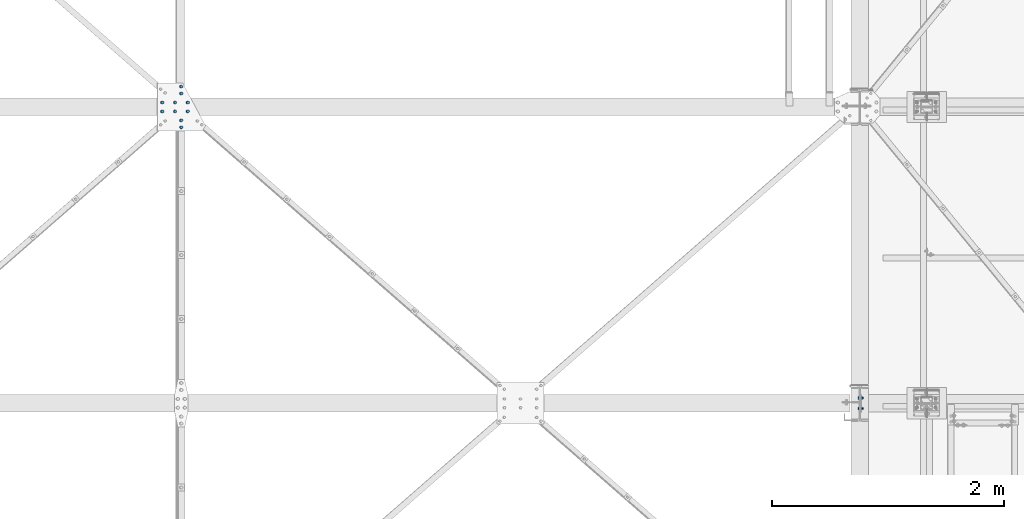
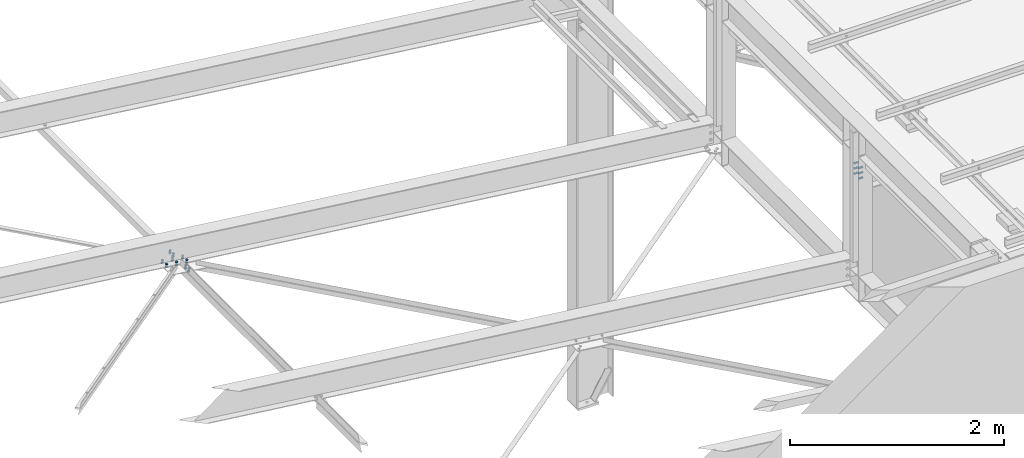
# One storey, part 302 of 3134: 4 mechanical fasteners, 4 elements without a shape of their own.
"""IFC2X3 building model written with IfcOpenShell, lengths in millimetres."""

from ifc_helpers import new_model, si_unit, frame, origin_with_axes, place, context, subcontext, project, spatial, faceted_brep, source, transform, mapped, material, type_object, element, aggregate, save


model = new_model("IFC2X3")

# Units and contexts
model_context = context("Model", 3, precision=1e-05, world=origin_with_axes())
body_context = subcontext(model_context, "Body", "Model", "MODEL_VIEW")
ifc_project = project(units=[si_unit("LENGTHUNIT", "METRE", prefix="MILLI"), si_unit("AREAUNIT", "SQUARE_METRE"), si_unit("VOLUMEUNIT", "CUBIC_METRE"), si_unit("MASSUNIT", "GRAM", prefix="KILO"), si_unit("TIMEUNIT", "SECOND"), si_unit("PLANEANGLEUNIT", "RADIAN"), si_unit("SOLIDANGLEUNIT", "STERADIAN"), si_unit("THERMODYNAMICTEMPERATUREUNIT", "DEGREE_CELSIUS"), si_unit("LUMINOUSINTENSITYUNIT", "LUMEN")], contexts=[model_context])

# Site, building, storey
site_placement = place(None, origin_with_axes())
site = spatial("IfcSite", under=ifc_project, at=site_placement, CompositionType="ELEMENT")
building_placement = place(site_placement, origin_with_axes())
building = spatial("IfcBuilding", under=site, at=building_placement, Name="Undefined", CompositionType="ELEMENT")
storey_placement = place(building_placement, origin_with_axes())
storey = spatial("IfcBuildingStorey", under=building, at=storey_placement, Name="Undefined", CompositionType="ELEMENT", Elevation=0.0)

# Assembly, mechanical fastener
assembly_1_placement = place(storey_placement, origin_with_axes())
assembly_1 = element("IfcElementAssembly", 1, at=assembly_1_placement, inside=storey, AssemblyPlace="NOTDEFINED", PredefinedType="RIGID_FRAME")
ifc_material = material(Name="8.8")
mechanical_fastener_type = type_object("IfcMechanicalFastenerType", Name="Bolt assembly")
shared_shape_1 = source(origin_with_axes(), body_context, "Body", "Brep", [
    faceted_brep([(13.856406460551, -16.9990000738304, 0.0), (6.92820323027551, -16.9990000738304, 12.0), (-6.92820323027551, -16.9990000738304, 12.0), (-13.856406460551, -16.9990000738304, 1.69692038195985e-15), (-6.92820323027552, -16.9990000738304, -12.0), (6.9282032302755, -16.9990000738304, -12.0), (6.9282032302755, -6.99900007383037, -12.0), (-6.92820323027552, -6.99900007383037, -12.0), (-13.856406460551, -6.99900007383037, 1.69692038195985e-15), (-6.92820323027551, -6.99900007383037, 12.0), (6.92820323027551, -6.99900007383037, 12.0), (13.856406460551, -6.99900007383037, 0.0), (8.0, -6.99900007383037, 0.0), (6.92820323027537, -6.99900007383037, 4.00000000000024), (3.99999999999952, -6.99900007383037, 6.92820323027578), (-8.29068785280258e-13, -6.99900007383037, 8.0), (-4.00000000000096, -6.99900007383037, 6.92820323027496), (-6.9282032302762, -6.99900007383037, 3.99999999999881), (-8.0, -6.99900007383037, -1.65813757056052e-12), (-6.92820323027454, -6.99900007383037, -4.00000000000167), (-3.99999999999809, -6.99900007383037, -6.92820323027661), (2.47832457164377e-12, -6.99900007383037, -8.0), (4.00000000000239, -6.99900007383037, -6.92820323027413), (6.92820323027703, -6.99900007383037, -3.99999999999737), (6.92820323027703, 33.0009999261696, -3.99999999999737), (4.00000000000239, 33.0009999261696, -6.92820323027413), (2.47832457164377e-12, 33.0009999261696, -8.0), (-3.99999999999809, 33.0009999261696, -6.92820323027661), (-6.92820323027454, 33.0009999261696, -4.00000000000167), (-8.0, 33.0009999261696, -1.65813757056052e-12), (-6.9282032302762, 33.0009999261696, 3.99999999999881), (-4.00000000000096, 33.0009999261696, 6.92820323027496), (-8.29068785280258e-13, 33.0009999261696, 8.0), (3.99999999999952, 33.0009999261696, 6.92820323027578), (6.92820323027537, 33.0009999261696, 4.00000000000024), (8.0, 33.0009999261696, 0.0), (13.856406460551, 14.9990000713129, 0.0), (6.92820323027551, 14.9990000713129, 12.0), (-6.92820323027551, 14.9990000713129, 12.0), (-13.856406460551, 14.9990000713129, 1.69692038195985e-15), (-6.92820323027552, 14.9990000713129, -12.0), (6.9282032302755, 14.9990000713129, -12.0), (6.9282032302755, 27.9990000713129, -12.0), (-6.92820323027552, 27.9990000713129, -12.0), (-13.856406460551, 27.9990000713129, 1.69692038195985e-15), (-6.92820323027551, 27.9990000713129, 12.0), (6.92820323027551, 27.9990000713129, 12.0), (13.856406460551, 27.9990000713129, 0.0)], [[[0, 1, 2, 3, 4, 5]], [[6, 7, 8, 9, 10, 11]], [[0, 11, 10, 1]], [[1, 10, 9, 2]], [[2, 9, 8, 3]], [[3, 8, 7, 4]], [[4, 7, 6, 5]], [[5, 6, 11, 0]], [[12, 13, 14, 15, 16, 17, 18, 19, 20, 21, 22, 23]], [[24, 25, 26, 27, 28, 29, 30, 31, 32, 33, 34, 35]], [[12, 35, 34, 13]], [[13, 34, 33, 14]], [[14, 33, 32, 15]], [[15, 32, 31, 16]], [[16, 31, 30, 17]], [[17, 30, 29, 18]], [[18, 29, 28, 19]], [[19, 28, 27, 20]], [[20, 27, 26, 21]], [[21, 26, 25, 22]], [[22, 25, 24, 23]], [[23, 24, 35, 12]], [[36, 37, 38, 39, 40, 41]], [[42, 43, 44, 45, 46, 47]], [[36, 47, 46, 37]], [[37, 46, 45, 38]], [[38, 45, 44, 39]], [[39, 44, 43, 40]], [[40, 43, 42, 41]], [[41, 42, 47, 36]]]),
    faceted_brep([(9.0, -3.46568413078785e-07, 0.0), (7.79422863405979, -3.46568413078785e-07, 4.50000000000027), (4.49999999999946, -3.46568413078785e-07, 7.79422863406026), (-9.3270238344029e-13, -3.46568413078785e-07, 9.0), (-4.50000000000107, -3.46568413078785e-07, 7.79422863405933), (-7.79422863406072, -3.46568413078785e-07, 4.49999999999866), (-9.0, -3.46568413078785e-07, -1.86540476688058e-12), (-7.79422863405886, -3.46568413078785e-07, -4.50000000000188), (-4.49999999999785, -3.46568413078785e-07, -7.79422863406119), (2.78811514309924e-12, -3.46568413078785e-07, -9.0), (4.50000000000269, -3.46568413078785e-07, -7.7942286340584), (7.79422863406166, -3.46568413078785e-07, -4.49999999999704), (7.79422863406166, 8.00000000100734, -4.49999999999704), (4.50000000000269, 8.00000000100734, -7.7942286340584), (2.78811514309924e-12, 8.00000000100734, -9.0), (-4.49999999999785, 8.00000000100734, -7.79422863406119), (-7.79422863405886, 8.00000000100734, -4.50000000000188), (-9.0, 8.00000000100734, -1.86540476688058e-12), (-7.79422863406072, 8.00000000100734, 4.49999999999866), (-4.50000000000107, 8.00000000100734, 7.79422863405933), (-9.3270238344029e-13, 8.00000000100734, 9.0), (4.49999999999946, 8.00000000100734, 7.79422863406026), (7.79422863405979, 8.00000000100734, 4.50000000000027), (9.0, 8.00000000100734, 0.0), (9.0, -6.89900007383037, 0.0), (7.79422863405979, -6.89900007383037, 4.50000000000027), (4.49999999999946, -6.89900007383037, 7.79422863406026), (-9.3270238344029e-13, -6.89900007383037, 9.0), (-4.50000000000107, -6.89900007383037, 7.79422863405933), (-7.79422863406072, -6.89900007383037, 4.49999999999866), (-9.0, -6.89900007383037, -1.86540476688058e-12), (-7.79422863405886, -6.89900007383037, -4.50000000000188), (-4.49999999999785, -6.89900007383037, -7.79422863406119), (2.78811514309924e-12, -6.89900007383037, -9.0), (4.50000000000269, -6.89900007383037, -7.7942286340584), (7.79422863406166, -6.89900007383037, -4.49999999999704), (7.79422863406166, 0.100999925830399, -4.49999999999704), (4.50000000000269, 0.100999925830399, -7.7942286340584), (2.78811514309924e-12, 0.100999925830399, -9.0), (-4.49999999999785, 0.100999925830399, -7.79422863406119), (-7.79422863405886, 0.100999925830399, -4.50000000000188), (-9.0, 0.100999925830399, -1.86540476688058e-12), (-7.79422863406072, 0.100999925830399, 4.49999999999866), (-4.50000000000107, 0.100999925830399, 7.79422863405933), (-9.3270238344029e-13, 0.100999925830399, 9.0), (4.49999999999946, 0.100999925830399, 7.79422863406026), (7.79422863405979, 0.100999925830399, 4.50000000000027), (9.0, 0.100999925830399, 0.0), (9.0, 7.89900007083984, 0.0), (7.79422863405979, 7.89900007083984, 4.50000000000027), (4.49999999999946, 7.89900007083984, 7.79422863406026), (-9.3270238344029e-13, 7.89900007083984, 9.0), (-4.50000000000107, 7.89900007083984, 7.79422863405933), (-7.79422863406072, 7.89900007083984, 4.49999999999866), (-9.0, 7.89900007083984, -1.86540476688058e-12), (-7.79422863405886, 7.89900007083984, -4.50000000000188), (-4.49999999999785, 7.89900007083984, -7.79422863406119), (2.78811514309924e-12, 7.89900007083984, -9.0), (4.50000000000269, 7.89900007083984, -7.7942286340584), (7.79422863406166, 7.89900007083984, -4.49999999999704), (7.79422863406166, 14.9990000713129, -4.49999999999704), (4.50000000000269, 14.9990000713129, -7.7942286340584), (2.78811514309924e-12, 14.9990000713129, -9.0), (-4.49999999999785, 14.9990000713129, -7.79422863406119), (-7.79422863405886, 14.9990000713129, -4.50000000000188), (-9.0, 14.9990000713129, -1.86540476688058e-12), (-7.79422863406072, 14.9990000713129, 4.49999999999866), (-4.50000000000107, 14.9990000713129, 7.79422863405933), (-9.3270238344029e-13, 14.9990000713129, 9.0), (4.49999999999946, 14.9990000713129, 7.79422863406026), (7.79422863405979, 14.9990000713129, 4.50000000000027), (9.0, 14.9990000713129, 0.0)], [[[0, 1, 2, 3, 4, 5, 6, 7, 8, 9, 10, 11]], [[12, 13, 14, 15, 16, 17, 18, 19, 20, 21, 22, 23]], [[0, 23, 22, 1]], [[1, 22, 21, 2]], [[2, 21, 20, 3]], [[3, 20, 19, 4]], [[4, 19, 18, 5]], [[5, 18, 17, 6]], [[6, 17, 16, 7]], [[7, 16, 15, 8]], [[8, 15, 14, 9]], [[9, 14, 13, 10]], [[10, 13, 12, 11]], [[11, 12, 23, 0]], [[24, 25, 26, 27, 28, 29, 30, 31, 32, 33, 34, 35]], [[36, 37, 38, 39, 40, 41, 42, 43, 44, 45, 46, 47]], [[24, 47, 46, 25]], [[25, 46, 45, 26]], [[26, 45, 44, 27]], [[27, 44, 43, 28]], [[28, 43, 42, 29]], [[29, 42, 41, 30]], [[30, 41, 40, 31]], [[31, 40, 39, 32]], [[32, 39, 38, 33]], [[33, 38, 37, 34]], [[34, 37, 36, 35]], [[35, 36, 47, 24]], [[48, 49, 50, 51, 52, 53, 54, 55, 56, 57, 58, 59]], [[60, 61, 62, 63, 64, 65, 66, 67, 68, 69, 70, 71]], [[48, 71, 70, 49]], [[49, 70, 69, 50]], [[50, 69, 68, 51]], [[51, 68, 67, 52]], [[52, 67, 66, 53]], [[53, 66, 65, 54]], [[54, 65, 64, 55]], [[55, 64, 63, 56]], [[56, 63, 62, 57]], [[57, 62, 61, 58]], [[58, 61, 60, 59]], [[59, 60, 71, 48]]]),
])
mechanical_fastener_1_placement = place(assembly_1_placement, frame((61712.9849612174, 4925.0, 4806.73358921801), z_axis=(-0.992623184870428, 0.0, 0.121240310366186), x_axis=(0.0, 1.0, 0.0)))
mechanical_fastener_1 = element("IfcMechanicalFastener", 2, at=mechanical_fastener_1_placement, type_object=mechanical_fastener_type, material=ifc_material, Name="Bolt assembly", NominalDiameter=16.0, NominalLength=40.0, context=body_context, shape_type="MappedRepresentation", body=[
    mapped(shared_shape_1, transform((0.0, 0.0, 0.0))),
    mapped(shared_shape_1, transform((59.9999999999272, 0.0, 5.40239852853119e-10))),
])
aggregate(assembly_1, [mechanical_fastener_1])

assembly_2_placement = place(storey_placement, origin_with_axes())
assembly_2 = element("IfcElementAssembly", 3, at=assembly_2_placement, inside=storey, Name="300", AssemblyPlace="NOTDEFINED", PredefinedType="RIGID_FRAME")
shared_shape_2 = source(origin_with_axes(), body_context, "Body", "Brep", [
    faceted_brep([(13.856406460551, -19.199990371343, 0.0), (6.92820323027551, -19.199990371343, 12.0), (-6.92820323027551, -19.199990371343, 12.0), (-13.856406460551, -19.199990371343, 1.69692038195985e-15), (-6.92820323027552, -19.199990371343, -12.0), (6.9282032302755, -19.199990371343, -12.0), (6.9282032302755, -9.19999037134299, -12.0), (-6.92820323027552, -9.19999037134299, -12.0), (-13.856406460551, -9.19999037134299, 1.69692038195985e-15), (-6.92820323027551, -9.19999037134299, 12.0), (6.92820323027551, -9.19999037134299, 12.0), (13.856406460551, -9.19999037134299, 0.0), (8.0, -9.19999037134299, 0.0), (6.92820323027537, -9.19999037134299, 4.00000000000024), (3.99999999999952, -9.19999037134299, 6.92820323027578), (-8.29068785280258e-13, -9.19999037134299, 8.0), (-4.00000000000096, -9.19999037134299, 6.92820323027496), (-6.9282032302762, -9.19999037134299, 3.99999999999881), (-8.0, -9.19999037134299, -1.65813757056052e-12), (-6.92820323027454, -9.19999037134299, -4.00000000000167), (-3.99999999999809, -9.19999037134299, -6.92820323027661), (2.47832457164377e-12, -9.19999037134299, -8.0), (4.00000000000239, -9.19999037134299, -6.92820323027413), (6.92820323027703, -9.19999037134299, -3.99999999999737), (6.92820323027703, 25.800009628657, -3.99999999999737), (4.00000000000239, 25.800009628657, -6.92820323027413), (2.47832457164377e-12, 25.800009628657, -8.0), (-3.99999999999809, 25.800009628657, -6.92820323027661), (-6.92820323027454, 25.800009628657, -4.00000000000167), (-8.0, 25.800009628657, -1.65813757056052e-12), (-6.9282032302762, 25.800009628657, 3.99999999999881), (-4.00000000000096, 25.800009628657, 6.92820323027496), (-8.29068785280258e-13, 25.800009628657, 8.0), (3.99999999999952, 25.800009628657, 6.92820323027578), (6.92820323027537, 25.800009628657, 4.00000000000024), (8.0, 25.800009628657, 0.0), (13.856406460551, 8.00000637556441, 0.0), (6.92820323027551, 8.00000637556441, 12.0), (-6.92820323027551, 8.00000637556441, 12.0), (-13.856406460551, 8.00000637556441, 1.69692038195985e-15), (-6.92820323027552, 8.00000637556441, -12.0), (6.9282032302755, 8.00000637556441, -12.0), (6.9282032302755, 21.0000063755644, -12.0), (-6.92820323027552, 21.0000063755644, -12.0), (-13.856406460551, 21.0000063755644, 1.69692038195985e-15), (-6.92820323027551, 21.0000063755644, 12.0), (6.92820323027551, 21.0000063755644, 12.0), (13.856406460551, 21.0000063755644, 0.0)], [[[0, 1, 2, 3, 4, 5]], [[6, 7, 8, 9, 10, 11]], [[0, 11, 10, 1]], [[1, 10, 9, 2]], [[2, 9, 8, 3]], [[3, 8, 7, 4]], [[4, 7, 6, 5]], [[5, 6, 11, 0]], [[12, 13, 14, 15, 16, 17, 18, 19, 20, 21, 22, 23]], [[24, 25, 26, 27, 28, 29, 30, 31, 32, 33, 34, 35]], [[12, 35, 34, 13]], [[13, 34, 33, 14]], [[14, 33, 32, 15]], [[15, 32, 31, 16]], [[16, 31, 30, 17]], [[17, 30, 29, 18]], [[18, 29, 28, 19]], [[19, 28, 27, 20]], [[20, 27, 26, 21]], [[21, 26, 25, 22]], [[22, 25, 24, 23]], [[23, 24, 35, 12]], [[36, 37, 38, 39, 40, 41]], [[42, 43, 44, 45, 46, 47]], [[36, 47, 46, 37]], [[37, 46, 45, 38]], [[38, 45, 44, 39]], [[39, 44, 43, 40]], [[40, 43, 42, 41]], [[41, 42, 47, 36]]]),
    faceted_brep([(9.0, -0.1, 0.0), (7.79422863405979, -0.1, 4.50000000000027), (4.49999999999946, -0.1, 7.79422863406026), (-9.3270238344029e-13, -0.1, 9.0), (-4.50000000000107, -0.1, 7.79422863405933), (-7.79422863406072, -0.1, 4.49999999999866), (-9.0, -0.1, -1.86540476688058e-12), (-7.79422863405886, -0.1, -4.50000000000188), (-4.49999999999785, -0.1, -7.79422863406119), (2.78811514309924e-12, -0.1, -9.0), (4.50000000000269, -0.1, -7.7942286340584), (7.79422863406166, -0.1, -4.49999999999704), (7.79422863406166, 8.00000000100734, -4.49999999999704), (4.50000000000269, 8.00000000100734, -7.7942286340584), (2.78811514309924e-12, 8.00000000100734, -9.0), (-4.49999999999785, 8.00000000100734, -7.79422863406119), (-7.79422863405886, 8.00000000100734, -4.50000000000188), (-9.0, 8.00000000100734, -1.86540476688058e-12), (-7.79422863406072, 8.00000000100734, 4.49999999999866), (-4.50000000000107, 8.00000000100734, 7.79422863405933), (-9.3270238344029e-13, 8.00000000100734, 9.0), (4.49999999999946, 8.00000000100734, 7.79422863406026), (7.79422863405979, 8.00000000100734, 4.50000000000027), (9.0, 8.00000000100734, 0.0), (9.0, -9.09999037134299, 0.0), (7.79422863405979, -9.09999037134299, 4.50000000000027), (4.49999999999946, -9.09999037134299, 7.79422863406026), (-9.3270238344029e-13, -9.09999037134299, 9.0), (-4.50000000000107, -9.09999037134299, 7.79422863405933), (-7.79422863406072, -9.09999037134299, 4.49999999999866), (-9.0, -9.09999037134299, -1.86540476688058e-12), (-7.79422863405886, -9.09999037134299, -4.50000000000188), (-4.49999999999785, -9.09999037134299, -7.79422863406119), (2.78811514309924e-12, -9.09999037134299, -9.0), (4.50000000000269, -9.09999037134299, -7.7942286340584), (7.79422863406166, -9.09999037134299, -4.49999999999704), (7.79422863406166, 0.100000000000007, -4.49999999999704), (4.50000000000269, 0.100000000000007, -7.7942286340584), (2.78811514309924e-12, 0.100000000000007, -9.0), (-4.49999999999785, 0.100000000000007, -7.79422863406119), (-7.79422863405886, 0.100000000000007, -4.50000000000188), (-9.0, 0.100000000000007, -1.86540476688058e-12), (-7.79422863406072, 0.100000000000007, 4.49999999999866), (-4.50000000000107, 0.100000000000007, 7.79422863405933), (-9.3270238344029e-13, 0.100000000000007, 9.0), (4.49999999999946, 0.100000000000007, 7.79422863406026), (7.79422863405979, 0.100000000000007, 4.50000000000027), (9.0, 0.100000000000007, 0.0)], [[[0, 1, 2, 3, 4, 5, 6, 7, 8, 9, 10, 11]], [[12, 13, 14, 15, 16, 17, 18, 19, 20, 21, 22, 23]], [[0, 23, 22, 1]], [[1, 22, 21, 2]], [[2, 21, 20, 3]], [[3, 20, 19, 4]], [[4, 19, 18, 5]], [[5, 18, 17, 6]], [[6, 17, 16, 7]], [[7, 16, 15, 8]], [[8, 15, 14, 9]], [[9, 14, 13, 10]], [[10, 13, 12, 11]], [[11, 12, 23, 0]], [[24, 25, 26, 27, 28, 29, 30, 31, 32, 33, 34, 35]], [[36, 37, 38, 39, 40, 41, 42, 43, 44, 45, 46, 47]], [[24, 47, 46, 25]], [[25, 46, 45, 26]], [[26, 45, 44, 27]], [[27, 44, 43, 28]], [[28, 43, 42, 29]], [[29, 42, 41, 30]], [[30, 41, 40, 31]], [[31, 40, 39, 32]], [[32, 39, 38, 33]], [[33, 38, 37, 34]], [[34, 37, 36, 35]], [[35, 36, 47, 24]]]),
])
mechanical_fastener_2_placement = place(assembly_2_placement, frame((61658.3906860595, 5062.0, 4813.40180628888), z_axis=(-0.992623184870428, 0.0, 0.121240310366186), x_axis=(0.0, 1.0, 0.0)))
mechanical_fastener_2 = element("IfcMechanicalFastener", 4, at=mechanical_fastener_2_placement, type_object=mechanical_fastener_type, material=ifc_material, Name="Bolt assembly", NominalDiameter=16.0, NominalLength=35.0, context=body_context, shape_type="MappedRepresentation", body=[
    mapped(shared_shape_2, transform((0.0, 1.8644641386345e-10, -109.999999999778))),
    mapped(shared_shape_2, transform((76.0, 1.8644641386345e-10, -109.999999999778))),
    mapped(shared_shape_2, transform((0.0, 0.0, 0.0))),
    mapped(shared_shape_2, transform((76.0, 0.0, 0.0))),
    mapped(shared_shape_2, transform((0.0, -1.8644641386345e-10, 109.999999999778))),
    mapped(shared_shape_2, transform((76.0, -1.8644641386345e-10, 109.999999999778))),
])
aggregate(assembly_2, [mechanical_fastener_2])

assembly_3_placement = place(storey_placement, origin_with_axes())
assembly_3 = element("IfcElementAssembly", 5, at=assembly_3_placement, inside=storey, Name="PL8", AssemblyPlace="NOTDEFINED", PredefinedType="RIGID_FRAME")
shared_shape_3 = source(origin_with_axes(), body_context, "Body", "Brep", [
    faceted_brep([(13.856406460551, -10.0, 0.0), (6.92820323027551, -10.0, 12.0), (-6.92820323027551, -10.0, 12.0), (-13.856406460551, -10.0, 1.69692038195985e-15), (-6.92820323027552, -10.0, -12.0), (6.9282032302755, -10.0, -12.0), (6.9282032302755, 0.0, -12.0), (-6.92820323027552, 0.0, -12.0), (-13.856406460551, 0.0, 1.69692038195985e-15), (-6.92820323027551, 0.0, 12.0), (6.92820323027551, 0.0, 12.0), (13.856406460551, 0.0, 0.0), (8.0, 0.0, 0.0), (6.92820323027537, 0.0, 4.00000000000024), (3.99999999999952, 0.0, 6.92820323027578), (-8.29068785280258e-13, 0.0, 8.0), (-4.00000000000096, 0.0, 6.92820323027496), (-6.9282032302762, 0.0, 3.99999999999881), (-8.0, 0.0, -1.65813757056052e-12), (-6.92820323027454, 0.0, -4.00000000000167), (-3.99999999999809, 0.0, -6.92820323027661), (2.47832457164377e-12, 0.0, -8.0), (4.00000000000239, 0.0, -6.92820323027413), (6.92820323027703, 0.0, -3.99999999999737), (6.92820323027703, 35.0000000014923, -3.99999999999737), (4.00000000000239, 35.0000000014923, -6.92820323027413), (2.47832457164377e-12, 35.0000000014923, -8.0), (-3.99999999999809, 35.0000000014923, -6.92820323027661), (-6.92820323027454, 35.0000000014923, -4.00000000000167), (-8.0, 35.0000000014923, -1.65813757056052e-12), (-6.9282032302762, 35.0000000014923, 3.99999999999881), (-4.00000000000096, 35.0000000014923, 6.92820323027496), (-8.29068785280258e-13, 35.0000000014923, 8.0), (3.99999999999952, 35.0000000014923, 6.92820323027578), (6.92820323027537, 35.0000000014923, 4.00000000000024), (8.0, 35.0000000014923, 0.0), (13.856406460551, 14.9999995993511, 0.0), (6.92820323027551, 14.9999995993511, 12.0), (-6.92820323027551, 14.9999995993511, 12.0), (-13.856406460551, 14.9999995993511, 1.69692038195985e-15), (-6.92820323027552, 14.9999995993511, -12.0), (6.9282032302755, 14.9999995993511, -12.0), (6.9282032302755, 27.9999995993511, -12.0), (-6.92820323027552, 27.9999995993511, -12.0), (-13.856406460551, 27.9999995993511, 1.69692038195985e-15), (-6.92820323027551, 27.9999995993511, 12.0), (6.92820323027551, 27.9999995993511, 12.0), (13.856406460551, 27.9999995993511, 0.0)], [[[0, 1, 2, 3, 4, 5]], [[6, 7, 8, 9, 10, 11]], [[0, 11, 10, 1]], [[1, 10, 9, 2]], [[2, 9, 8, 3]], [[3, 8, 7, 4]], [[4, 7, 6, 5]], [[5, 6, 11, 0]], [[12, 13, 14, 15, 16, 17, 18, 19, 20, 21, 22, 23]], [[24, 25, 26, 27, 28, 29, 30, 31, 32, 33, 34, 35]], [[12, 35, 34, 13]], [[13, 34, 33, 14]], [[14, 33, 32, 15]], [[15, 32, 31, 16]], [[16, 31, 30, 17]], [[17, 30, 29, 18]], [[18, 29, 28, 19]], [[19, 28, 27, 20]], [[20, 27, 26, 21]], [[21, 26, 25, 22]], [[22, 25, 24, 23]], [[23, 24, 35, 12]], [[36, 37, 38, 39, 40, 41]], [[42, 43, 44, 45, 46, 47]], [[36, 47, 46, 37]], [[37, 46, 45, 38]], [[38, 45, 44, 39]], [[39, 44, 43, 40]], [[40, 43, 42, 41]], [[41, 42, 47, 36]]]),
    faceted_brep([(9.0, 7.9, 0.0), (7.79422863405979, 7.9, 4.50000000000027), (4.49999999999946, 7.9, 7.79422863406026), (-9.3270238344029e-13, 7.9, 9.0), (-4.50000000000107, 7.9, 7.79422863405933), (-7.79422863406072, 7.9, 4.49999999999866), (-9.0, 7.9, -1.86540476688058e-12), (-7.79422863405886, 7.9, -4.50000000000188), (-4.49999999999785, 7.9, -7.79422863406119), (2.78811514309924e-12, 7.9, -9.0), (4.50000000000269, 7.9, -7.7942286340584), (7.79422863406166, 7.9, -4.49999999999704), (7.79422863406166, 14.9999995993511, -4.49999999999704), (4.50000000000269, 14.9999995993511, -7.7942286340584), (2.78811514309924e-12, 14.9999995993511, -9.0), (-4.49999999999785, 14.9999995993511, -7.79422863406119), (-7.79422863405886, 14.9999995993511, -4.50000000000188), (-9.0, 14.9999995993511, -1.86540476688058e-12), (-7.79422863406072, 14.9999995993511, 4.49999999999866), (-4.50000000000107, 14.9999995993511, 7.79422863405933), (-9.3270238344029e-13, 14.9999995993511, 9.0), (4.49999999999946, 14.9999995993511, 7.79422863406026), (7.79422863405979, 14.9999995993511, 4.50000000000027), (9.0, 14.9999995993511, 0.0), (9.0, 0.100000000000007, 0.0), (7.79422863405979, 0.100000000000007, 4.50000000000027), (4.49999999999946, 0.100000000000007, 7.79422863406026), (-9.3270238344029e-13, 0.100000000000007, 9.0), (-4.50000000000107, 0.100000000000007, 7.79422863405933), (-7.79422863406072, 0.100000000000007, 4.49999999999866), (-9.0, 0.100000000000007, -1.86540476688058e-12), (-7.79422863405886, 0.100000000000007, -4.50000000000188), (-4.49999999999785, 0.100000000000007, -7.79422863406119), (2.78811514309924e-12, 0.100000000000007, -9.0), (4.50000000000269, 0.100000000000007, -7.7942286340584), (7.79422863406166, 0.100000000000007, -4.49999999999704), (7.79422863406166, 8.1, -4.49999999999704), (4.50000000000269, 8.1, -7.7942286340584), (2.78811514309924e-12, 8.1, -9.0), (-4.49999999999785, 8.1, -7.79422863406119), (-7.79422863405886, 8.1, -4.50000000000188), (-9.0, 8.1, -1.86540476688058e-12), (-7.79422863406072, 8.1, 4.49999999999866), (-4.50000000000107, 8.1, 7.79422863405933), (-9.3270238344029e-13, 8.1, 9.0), (4.49999999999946, 8.1, 7.79422863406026), (7.79422863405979, 8.1, 4.50000000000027), (9.0, 8.1, 0.0)], [[[0, 1, 2, 3, 4, 5, 6, 7, 8, 9, 10, 11]], [[12, 13, 14, 15, 16, 17, 18, 19, 20, 21, 22, 23]], [[0, 23, 22, 1]], [[1, 22, 21, 2]], [[2, 21, 20, 3]], [[3, 20, 19, 4]], [[4, 19, 18, 5]], [[5, 18, 17, 6]], [[6, 17, 16, 7]], [[7, 16, 15, 8]], [[8, 15, 14, 9]], [[9, 14, 13, 10]], [[10, 13, 12, 11]], [[11, 12, 23, 0]], [[24, 25, 26, 27, 28, 29, 30, 31, 32, 33, 34, 35]], [[36, 37, 38, 39, 40, 41, 42, 43, 44, 45, 46, 47]], [[24, 47, 46, 25]], [[25, 46, 45, 26]], [[26, 45, 44, 27]], [[27, 44, 43, 28]], [[28, 43, 42, 29]], [[29, 42, 41, 30]], [[30, 41, 40, 31]], [[31, 40, 39, 32]], [[32, 39, 38, 33]], [[33, 38, 37, 34]], [[34, 37, 36, 35]], [[35, 36, 47, 24]]]),
])
mechanical_fastener_3_placement = place(assembly_3_placement, frame((61712.9849612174, 5274.99999999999, 4806.733589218), z_axis=(0.992623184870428, 0.0, -0.121240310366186), x_axis=(0.0, -1.0, 0.0)))
mechanical_fastener_3 = element("IfcMechanicalFastener", 6, at=mechanical_fastener_3_placement, type_object=mechanical_fastener_type, material=ifc_material, Name="Bolt assembly", NominalDiameter=16.0, NominalLength=35.0, context=body_context, shape_type="MappedRepresentation", body=[
    mapped(shared_shape_3, transform((0.0, 0.0, 0.0))),
    mapped(shared_shape_3, transform((59.9999999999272, 0.0, 5.40239852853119e-10))),
])
aggregate(assembly_3, [mechanical_fastener_3])

assembly_4_placement = place(storey_placement, origin_with_axes())
assembly_4 = element("IfcElementAssembly", 7, at=assembly_4_placement, inside=storey, Name="300", AssemblyPlace="NOTDEFINED", PredefinedType="RIGID_FRAME")
shared_shape_4 = source(origin_with_axes(), body_context, "Body", "Brep", [
    faceted_brep([(13.856406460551, -26.1000002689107, 0.0), (6.92820323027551, -26.1000002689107, 12.0), (-6.92820323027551, -26.1000002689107, 12.0), (-13.856406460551, -26.1000002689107, 1.69692038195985e-15), (-6.92820323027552, -26.1000002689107, -12.0), (6.9282032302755, -26.1000002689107, -12.0), (6.9282032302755, -16.0999999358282, -12.0), (-6.92820323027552, -16.0999999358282, -12.0), (-13.856406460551, -16.0999999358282, 1.69692038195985e-15), (-6.92820323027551, -16.0999999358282, 12.0), (6.92820323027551, -16.0999999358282, 12.0), (13.856406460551, -16.0999999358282, 0.0), (8.0, -16.1000002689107, 0.0), (6.92820323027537, -16.1000002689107, 4.00000000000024), (3.99999999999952, -16.1000002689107, 6.92820323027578), (-8.29068785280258e-13, -16.1000002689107, 8.0), (-4.00000000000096, -16.1000002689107, 6.92820323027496), (-6.9282032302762, -16.1000002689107, 3.99999999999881), (-8.0, -16.1000002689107, -1.65813757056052e-12), (-6.92820323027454, -16.1000002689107, -4.00000000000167), (-3.99999999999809, -16.1000002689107, -6.92820323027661), (2.47832457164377e-12, -16.1000002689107, -8.0), (4.00000000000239, -16.1000002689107, -6.92820323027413), (6.92820323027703, -16.1000002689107, -3.99999999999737), (6.92820323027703, 18.8999997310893, -3.99999999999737), (4.00000000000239, 18.8999997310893, -6.92820323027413), (2.47832457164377e-12, 18.8999997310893, -8.0), (-3.99999999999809, 18.8999997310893, -6.92820323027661), (-6.92820323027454, 18.8999997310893, -4.00000000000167), (-8.0, 18.8999997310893, -1.65813757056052e-12), (-6.9282032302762, 18.8999997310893, 3.99999999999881), (-4.00000000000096, 18.8999997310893, 6.92820323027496), (-8.29068785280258e-13, 18.8999997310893, 8.0), (3.99999999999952, 18.8999997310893, 6.92820323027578), (6.92820323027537, 18.8999997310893, 4.00000000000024), (8.0, 18.8999997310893, 0.0), (13.856406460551, 0.0, 0.0), (6.92820323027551, 0.0, 12.0), (-6.92820323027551, 0.0, 12.0), (-13.856406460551, 0.0, 1.69692038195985e-15), (-6.92820323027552, 0.0, -12.0), (6.9282032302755, 0.0, -12.0), (6.9282032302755, 12.9999996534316, -12.0), (-6.92820323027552, 12.9999996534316, -12.0), (-13.856406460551, 12.9999996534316, 1.69692038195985e-15), (-6.92820323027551, 12.9999996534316, 12.0), (6.92820323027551, 12.9999996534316, 12.0), (13.856406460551, 12.9999996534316, 0.0)], [[[0, 1, 2, 3, 4, 5]], [[6, 7, 8, 9, 10, 11]], [[0, 11, 10, 1]], [[1, 10, 9, 2]], [[2, 9, 8, 3]], [[3, 8, 7, 4]], [[4, 7, 6, 5]], [[5, 6, 11, 0]], [[12, 13, 14, 15, 16, 17, 18, 19, 20, 21, 22, 23]], [[24, 25, 26, 27, 28, 29, 30, 31, 32, 33, 34, 35]], [[12, 35, 34, 13]], [[13, 34, 33, 14]], [[14, 33, 32, 15]], [[15, 32, 31, 16]], [[16, 31, 30, 17]], [[17, 30, 29, 18]], [[18, 29, 28, 19]], [[19, 28, 27, 20]], [[20, 27, 26, 21]], [[21, 26, 25, 22]], [[22, 25, 24, 23]], [[23, 24, 35, 12]], [[36, 37, 38, 39, 40, 41]], [[42, 43, 44, 45, 46, 47]], [[36, 47, 46, 37]], [[37, 46, 45, 38]], [[38, 45, 44, 39]], [[39, 44, 43, 40]], [[40, 43, 42, 41]], [[41, 42, 47, 36]]]),
    faceted_brep([(9.0, -10.1000003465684, 0.0), (7.79422863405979, -10.1000003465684, 4.50000000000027), (4.49999999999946, -10.1000003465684, 7.79422863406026), (-9.3270238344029e-13, -10.1000003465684, 9.0), (-4.50000000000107, -10.1000003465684, 7.79422863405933), (-7.79422863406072, -10.1000003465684, 4.49999999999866), (-9.0, -10.1000003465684, -1.86540476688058e-12), (-7.79422863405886, -10.1000003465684, -4.50000000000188), (-4.49999999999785, -10.1000003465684, -7.79422863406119), (2.78811514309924e-12, -10.1000003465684, -9.0), (4.50000000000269, -10.1000003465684, -7.7942286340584), (7.79422863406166, -10.1000003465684, -4.49999999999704), (7.79422863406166, -3.46568413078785e-07, -4.49999999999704), (4.50000000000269, -3.46568413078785e-07, -7.7942286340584), (2.78811514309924e-12, -3.46568413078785e-07, -9.0), (-4.49999999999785, -3.46568413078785e-07, -7.79422863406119), (-7.79422863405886, -3.46568413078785e-07, -4.50000000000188), (-9.0, -3.46568413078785e-07, -1.86540476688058e-12), (-7.79422863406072, -3.46568413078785e-07, 4.49999999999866), (-4.50000000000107, -3.46568413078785e-07, 7.79422863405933), (-9.3270238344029e-13, -3.46568413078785e-07, 9.0), (4.49999999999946, -3.46568413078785e-07, 7.79422863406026), (7.79422863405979, -3.46568413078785e-07, 4.50000000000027), (9.0, -3.46568413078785e-07, 0.0), (9.0, -16.0000002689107, 0.0), (7.79422863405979, -16.0000002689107, 4.50000000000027), (4.49999999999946, -16.0000002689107, 7.79422863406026), (-9.3270238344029e-13, -16.0000002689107, 9.0), (-4.50000000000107, -16.0000002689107, 7.79422863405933), (-7.79422863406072, -16.0000002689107, 4.49999999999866), (-9.0, -16.0000002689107, -1.86540476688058e-12), (-7.79422863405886, -16.0000002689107, -4.50000000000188), (-4.49999999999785, -16.0000002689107, -7.79422863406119), (2.78811514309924e-12, -16.0000002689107, -9.0), (4.50000000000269, -16.0000002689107, -7.7942286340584), (7.79422863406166, -16.0000002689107, -4.49999999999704), (7.79422863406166, -9.89999997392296, -4.49999999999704), (4.50000000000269, -9.89999997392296, -7.7942286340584), (2.78811514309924e-12, -9.89999997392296, -9.0), (-4.49999999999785, -9.89999997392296, -7.79422863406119), (-7.79422863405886, -9.89999997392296, -4.50000000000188), (-9.0, -9.89999997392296, -1.86540476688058e-12), (-7.79422863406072, -9.89999997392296, 4.49999999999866), (-4.50000000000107, -9.89999997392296, 7.79422863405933), (-9.3270238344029e-13, -9.89999997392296, 9.0), (4.49999999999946, -9.89999997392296, 7.79422863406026), (7.79422863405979, -9.89999997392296, 4.50000000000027), (9.0, -9.89999997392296, 0.0)], [[[0, 1, 2, 3, 4, 5, 6, 7, 8, 9, 10, 11]], [[12, 13, 14, 15, 16, 17, 18, 19, 20, 21, 22, 23]], [[0, 23, 22, 1]], [[1, 22, 21, 2]], [[2, 21, 20, 3]], [[3, 20, 19, 4]], [[4, 19, 18, 5]], [[5, 18, 17, 6]], [[6, 17, 16, 7]], [[7, 16, 15, 8]], [[8, 15, 14, 9]], [[9, 14, 13, 10]], [[10, 13, 12, 11]], [[11, 12, 23, 0]], [[24, 25, 26, 27, 28, 29, 30, 31, 32, 33, 34, 35]], [[36, 37, 38, 39, 40, 41, 42, 43, 44, 45, 46, 47]], [[24, 47, 46, 25]], [[25, 46, 45, 26]], [[26, 45, 44, 27]], [[27, 44, 43, 28]], [[28, 43, 42, 29]], [[29, 42, 41, 30]], [[30, 41, 40, 31]], [[31, 40, 39, 32]], [[32, 39, 38, 33]], [[33, 38, 37, 34]], [[34, 37, 36, 35]], [[35, 36, 47, 24]]]),
])
mechanical_fastener_4_placement = place(assembly_4_placement, frame((67563.0500003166, 2550.0, 5269.59113578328), z_axis=(0.0, 1.0, 0.0), x_axis=(0.0, 0.0, 1.0)))
mechanical_fastener_4 = element("IfcMechanicalFastener", 8, at=mechanical_fastener_4_placement, type_object=mechanical_fastener_type, material=ifc_material, Name="Bolt assembly", NominalDiameter=16.0, NominalLength=35.0, context=body_context, shape_type="MappedRepresentation", body=[
    mapped(shared_shape_4, transform((0.0, 0.0, -45.0))),
    mapped(shared_shape_4, transform((60.0, 0.0, -45.0))),
    mapped(shared_shape_4, transform((120.0, 0.0, -45.0))),
    mapped(shared_shape_4, transform((0.0, 0.0, 45.0))),
    mapped(shared_shape_4, transform((60.0, 0.0, 45.0))),
    mapped(shared_shape_4, transform((120.0, 0.0, 45.0))),
])
aggregate(assembly_4, [mechanical_fastener_4])

save(model, "model.ifc")
